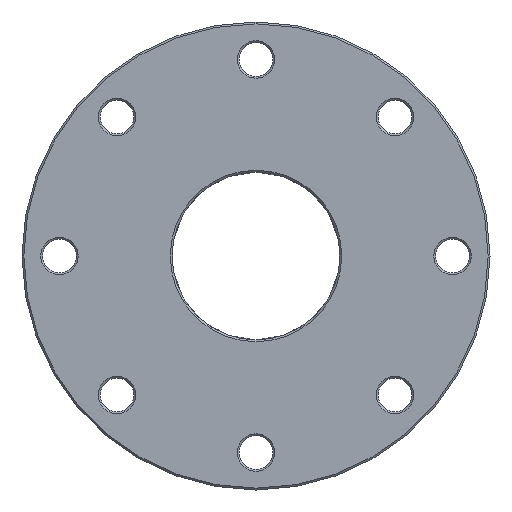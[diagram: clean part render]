
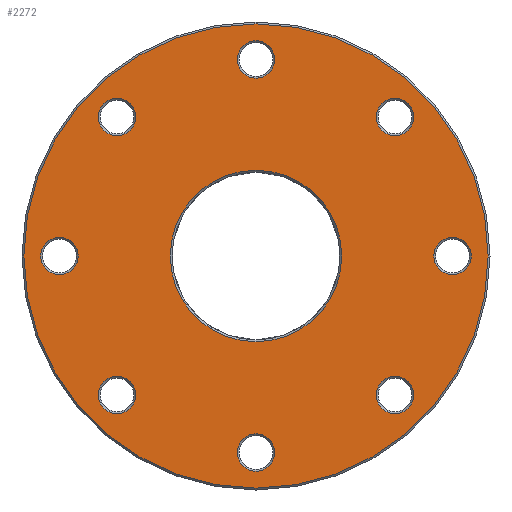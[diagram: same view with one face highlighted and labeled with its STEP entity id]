
A CAD part, front view. The second image highlights one B-rep face of the part: STEP entity #2272.
In plain terms, the highlighted planar face has unit normal (0, -1, 0).
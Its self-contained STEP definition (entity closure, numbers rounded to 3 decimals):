
#646=CARTESIAN_POINT('',(74.246,1.552,74.246));
#647=DIRECTION('',(0.,1.,0.));
#648=DIRECTION('',(-0.707,0.,0.707));
#649=AXIS2_PLACEMENT_3D('',#646,#647,#648);
#654=CARTESIAN_POINT('',(74.246,1.552,74.246));
#655=DIRECTION('',(0.,1.,0.));
#656=DIRECTION('',(0.707,0.,-0.707));
#657=AXIS2_PLACEMENT_3D('',#654,#655,#656);
#662=CARTESIAN_POINT('',(105.,1.552,0.));
#663=DIRECTION('',(0.,1.,0.));
#664=DIRECTION('',(0.,0.,1.));
#665=AXIS2_PLACEMENT_3D('',#662,#663,#664);
#670=CARTESIAN_POINT('',(105.,1.552,0.));
#671=DIRECTION('',(0.,1.,0.));
#672=DIRECTION('',(0.,0.,-1.));
#673=AXIS2_PLACEMENT_3D('',#670,#671,#672);
#678=CARTESIAN_POINT('',(74.246,1.552,-74.246));
#679=DIRECTION('',(0.,1.,0.));
#680=DIRECTION('',(0.707,0.,0.707));
#681=AXIS2_PLACEMENT_3D('',#678,#679,#680);
#686=CARTESIAN_POINT('',(74.246,1.552,-74.246));
#687=DIRECTION('',(0.,1.,0.));
#688=DIRECTION('',(-0.707,0.,-0.707));
#689=AXIS2_PLACEMENT_3D('',#686,#687,#688);
#694=CARTESIAN_POINT('',(0.,1.552,-105.));
#695=DIRECTION('',(0.,1.,0.));
#696=DIRECTION('',(1.,0.,0.));
#697=AXIS2_PLACEMENT_3D('',#694,#695,#696);
#702=CARTESIAN_POINT('',(0.,1.552,-105.));
#703=DIRECTION('',(0.,1.,0.));
#704=DIRECTION('',(-1.,0.,0.));
#705=AXIS2_PLACEMENT_3D('',#702,#703,#704);
#710=CARTESIAN_POINT('',(-74.246,1.552,-74.246));
#711=DIRECTION('',(0.,1.,0.));
#712=DIRECTION('',(0.707,0.,-0.707));
#713=AXIS2_PLACEMENT_3D('',#710,#711,#712);
#718=CARTESIAN_POINT('',(-74.246,1.552,-74.246));
#719=DIRECTION('',(0.,1.,0.));
#720=DIRECTION('',(-0.707,0.,0.707));
#721=AXIS2_PLACEMENT_3D('',#718,#719,#720);
#726=CARTESIAN_POINT('',(-105.,1.552,0.));
#727=DIRECTION('',(0.,1.,0.));
#728=DIRECTION('',(0.,0.,-1.));
#729=AXIS2_PLACEMENT_3D('',#726,#727,#728);
#734=CARTESIAN_POINT('',(-105.,1.552,0.));
#735=DIRECTION('',(0.,1.,0.));
#736=DIRECTION('',(0.,0.,1.));
#737=AXIS2_PLACEMENT_3D('',#734,#735,#736);
#742=CARTESIAN_POINT('',(-74.246,1.552,74.246));
#743=DIRECTION('',(0.,1.,0.));
#744=DIRECTION('',(-0.707,0.,-0.707));
#745=AXIS2_PLACEMENT_3D('',#742,#743,#744);
#750=CARTESIAN_POINT('',(-74.246,1.552,74.246));
#751=DIRECTION('',(0.,1.,0.));
#752=DIRECTION('',(0.707,0.,0.707));
#753=AXIS2_PLACEMENT_3D('',#750,#751,#752);
#758=CARTESIAN_POINT('',(0.,1.552,105.));
#759=DIRECTION('',(0.,1.,0.));
#760=DIRECTION('',(1.,0.,0.));
#761=AXIS2_PLACEMENT_3D('',#758,#759,#760);
#766=CARTESIAN_POINT('',(0.,1.552,105.));
#767=DIRECTION('',(0.,1.,0.));
#768=DIRECTION('',(-1.,0.,0.));
#769=AXIS2_PLACEMENT_3D('',#766,#767,#768);
#774=CARTESIAN_POINT('',(0.,1.552,0.));
#775=DIRECTION('',(0.,-1.,0.));
#776=DIRECTION('',(-1.,0.,0.));
#777=AXIS2_PLACEMENT_3D('',#774,#775,#776);
#782=CARTESIAN_POINT('',(0.,1.552,0.));
#783=DIRECTION('',(0.,-1.,0.));
#784=DIRECTION('',(1.,0.,0.));
#785=AXIS2_PLACEMENT_3D('',#782,#783,#784);
#790=CARTESIAN_POINT('',(0.,1.552,0.));
#791=DIRECTION('',(0.,1.,0.));
#792=DIRECTION('',(1.,0.,0.));
#793=AXIS2_PLACEMENT_3D('',#790,#791,#792);
#798=CARTESIAN_POINT('',(0.,1.552,0.));
#799=DIRECTION('',(0.,1.,0.));
#800=DIRECTION('',(-1.,0.,0.));
#801=AXIS2_PLACEMENT_3D('',#798,#799,#800);
#1657=CARTESIAN_POINT('',(67.175,1.552,81.317));
#1658=CARTESIAN_POINT('',(81.317,1.552,67.175));
#1659=VERTEX_POINT('',#1657);
#1660=VERTEX_POINT('',#1658);
#1665=CARTESIAN_POINT('',(105.,1.552,10.));
#1666=CARTESIAN_POINT('',(105.,1.552,-10.));
#1667=VERTEX_POINT('',#1665);
#1668=VERTEX_POINT('',#1666);
#1673=CARTESIAN_POINT('',(81.317,1.552,-67.175));
#1674=CARTESIAN_POINT('',(67.175,1.552,-81.317));
#1675=VERTEX_POINT('',#1673);
#1676=VERTEX_POINT('',#1674);
#1681=CARTESIAN_POINT('',(10.,1.552,-105.));
#1682=CARTESIAN_POINT('',(-10.,1.552,-105.));
#1683=VERTEX_POINT('',#1681);
#1684=VERTEX_POINT('',#1682);
#1689=CARTESIAN_POINT('',(-67.175,1.552,
-81.317));
#1690=CARTESIAN_POINT('',(-81.317,1.552,
-67.175));
#1691=VERTEX_POINT('',#1689);
#1692=VERTEX_POINT('',#1690);
#1697=CARTESIAN_POINT('',(-105.,1.552,-10.));
#1698=CARTESIAN_POINT('',(-105.,1.552,10.));
#1699=VERTEX_POINT('',#1697);
#1700=VERTEX_POINT('',#1698);
#1705=CARTESIAN_POINT('',(-81.317,1.552,67.175));
#1706=CARTESIAN_POINT('',(-67.175,1.552,81.317));
#1707=VERTEX_POINT('',#1705);
#1708=VERTEX_POINT('',#1706);
#1721=CARTESIAN_POINT('',(10.,1.552,105.));
#1722=CARTESIAN_POINT('',(-10.,1.552,105.));
#1723=VERTEX_POINT('',#1721);
#1724=VERTEX_POINT('',#1722);
#1729=CARTESIAN_POINT('',(-124.,1.552,0.));
#1730=CARTESIAN_POINT('',(124.,1.552,0.));
#1731=VERTEX_POINT('',#1729);
#1732=VERTEX_POINT('',#1730);
#1737=CARTESIAN_POINT('',(45.793,1.552,
0.));
#1738=CARTESIAN_POINT('',(-45.793,1.552,0.));
#1739=VERTEX_POINT('',#1737);
#1740=VERTEX_POINT('',#1738);
#2208=CARTESIAN_POINT('',(0.,1.552,0.));
#2209=DIRECTION('',(0.,-1.,0.));
#2210=DIRECTION('',(1.,0.,0.));
#2211=AXIS2_PLACEMENT_3D('',#2208,#2209,#2210);
#2212=PLANE('',#2211);
#2214=ORIENTED_EDGE('',*,*,#2213,.F.);
#2216=ORIENTED_EDGE('',*,*,#2215,.F.);
#2217=EDGE_LOOP('',(#2214,#2216));
#2218=FACE_OUTER_BOUND('',#2217,.F.);
#2220=ORIENTED_EDGE('',*,*,#2219,.F.);
#2222=ORIENTED_EDGE('',*,*,#2221,.F.);
#2223=EDGE_LOOP('',(#2220,#2222));
#2224=FACE_BOUND('',#2223,.F.);
#2226=ORIENTED_EDGE('',*,*,#2225,.F.);
#2228=ORIENTED_EDGE('',*,*,#2227,.F.);
#2229=EDGE_LOOP('',(#2226,#2228));
#2230=FACE_BOUND('',#2229,.F.);
#2232=ORIENTED_EDGE('',*,*,#2231,.F.);
#2234=ORIENTED_EDGE('',*,*,#2233,.F.);
#2235=EDGE_LOOP('',(#2232,#2234));
#2236=FACE_BOUND('',#2235,.F.);
#2238=ORIENTED_EDGE('',*,*,#2237,.F.);
#2240=ORIENTED_EDGE('',*,*,#2239,.F.);
#2241=EDGE_LOOP('',(#2238,#2240));
#2242=FACE_BOUND('',#2241,.F.);
#2244=ORIENTED_EDGE('',*,*,#2243,.F.);
#2246=ORIENTED_EDGE('',*,*,#2245,.F.);
#2247=EDGE_LOOP('',(#2244,#2246));
#2248=FACE_BOUND('',#2247,.F.);
#2250=ORIENTED_EDGE('',*,*,#2249,.F.);
#2252=ORIENTED_EDGE('',*,*,#2251,.F.);
#2253=EDGE_LOOP('',(#2250,#2252));
#2254=FACE_BOUND('',#2253,.F.);
#2256=ORIENTED_EDGE('',*,*,#2255,.F.);
#2258=ORIENTED_EDGE('',*,*,#2257,.F.);
#2259=EDGE_LOOP('',(#2256,#2258));
#2260=FACE_BOUND('',#2259,.F.);
#2262=ORIENTED_EDGE('',*,*,#2261,.F.);
#2264=ORIENTED_EDGE('',*,*,#2263,.F.);
#2265=EDGE_LOOP('',(#2262,#2264));
#2266=FACE_BOUND('',#2265,.F.);
#2268=ORIENTED_EDGE('',*,*,#2267,.F.);
#2269=ORIENTED_EDGE('',*,*,#2198,.F.);
#2270=EDGE_LOOP('',(#2268,#2269));
#2271=FACE_BOUND('',#2270,.F.);
#650=CIRCLE('',#649,10.);
#658=CIRCLE('',#657,10.);
#666=CIRCLE('',#665,10.);
#674=CIRCLE('',#673,10.);
#682=CIRCLE('',#681,10.);
#690=CIRCLE('',#689,10.);
#698=CIRCLE('',#697,10.);
#706=CIRCLE('',#705,10.);
#714=CIRCLE('',#713,10.);
#722=CIRCLE('',#721,10.);
#730=CIRCLE('',#729,10.);
#738=CIRCLE('',#737,10.);
#746=CIRCLE('',#745,10.);
#754=CIRCLE('',#753,10.);
#762=CIRCLE('',#761,10.);
#770=CIRCLE('',#769,10.);
#778=CIRCLE('',#777,124.);
#786=CIRCLE('',#785,124.);
#794=CIRCLE('',#793,45.793);
#802=CIRCLE('',#801,45.793);
#2198=EDGE_CURVE('',#1740,#1739,#802,.T.);
#2213=EDGE_CURVE('',#1731,#1732,#778,.T.);
#2215=EDGE_CURVE('',#1732,#1731,#786,.T.);
#2219=EDGE_CURVE('',#1667,#1668,#666,.T.);
#2221=EDGE_CURVE('',#1668,#1667,#674,.T.);
#2225=EDGE_CURVE('',#1675,#1676,#682,.T.);
#2227=EDGE_CURVE('',#1676,#1675,#690,.T.);
#2231=EDGE_CURVE('',#1683,#1684,#698,.T.);
#2233=EDGE_CURVE('',#1684,#1683,#706,.T.);
#2237=EDGE_CURVE('',#1691,#1692,#714,.T.);
#2239=EDGE_CURVE('',#1692,#1691,#722,.T.);
#2243=EDGE_CURVE('',#1699,#1700,#730,.T.);
#2245=EDGE_CURVE('',#1700,#1699,#738,.T.);
#2249=EDGE_CURVE('',#1707,#1708,#746,.T.);
#2251=EDGE_CURVE('',#1708,#1707,#754,.T.);
#2255=EDGE_CURVE('',#1723,#1724,#762,.T.);
#2257=EDGE_CURVE('',#1724,#1723,#770,.T.);
#2261=EDGE_CURVE('',#1659,#1660,#650,.T.);
#2263=EDGE_CURVE('',#1660,#1659,#658,.T.);
#2267=EDGE_CURVE('',#1739,#1740,#794,.T.);
#2272=ADVANCED_FACE('',(#2218,#2224,#2230,#2236,#2242,#2248,#2254,#2260,#2266,
#2271),#2212,.T.);
